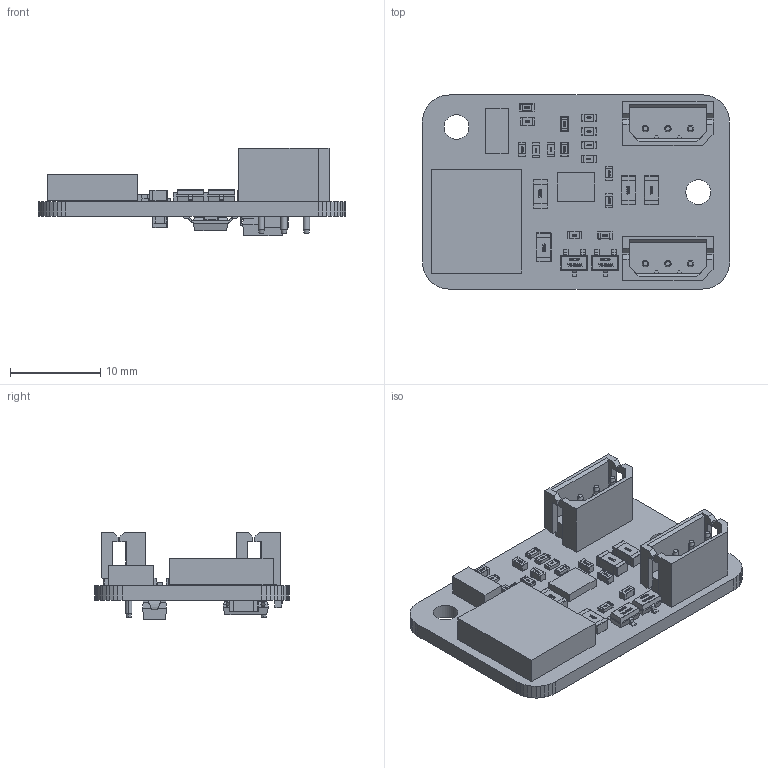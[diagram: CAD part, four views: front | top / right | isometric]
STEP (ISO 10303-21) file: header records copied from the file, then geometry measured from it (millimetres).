
FILE_DESCRIPTION(('Open CASCADE Model'),'2;1');
FILE_NAME('Open CASCADE Shape Model','2024-03-30T10:19:17',('Author'),( 'Open CASCADE'),'Open CASCADE STEP processor 6.5','Open CASCADE 6.5' ,'Unknown');
FILE_SCHEMA(('AUTOMOTIVE_DESIGN { 1 0 10303 214 1 1 1 1 }'));
Length unit declared in the file: millimetre
Products named in the file (64): PCB; Board; U1; 1444549888; Extruded; R9; R0603; R_0603-3615_AF0_ASM; R_0603-3601_AF0_ASM; _2_1_2_3_4_AF0; _7_1_2_AF0; 5_1_2_3_400; R8; R7; R6; R5; R4; R3; R2; R1; Q2; SOT-23; Q1; L1; 1444548992; D2; 1423784848; C14; C_0603; C_0603-7177_AF0_ASM; C_0603-683_AF0_ASM; 2_1_200; _1_1_20001; 3_1_2_A; C13; C12; 3D_Model; C_1206-6326_AF0_ASM; C_1206-2941_AF0_ASM; _1_1_2_3_40001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
Assembly tree (85 placements, depth 6):
  PCB
    Board
    U1
      1444549888
        Extruded
    R9
      R0603
        R_0603-3615_AF0_ASM
          R_0603-3601_AF0_ASM
            _2_1_2_3_4_AF0
            _7_1_2_AF0
            5_1_2_3_400
    R8
      R0603
        R_0603-3615_AF0_ASM
          R_0603-3601_AF0_ASM
            _2_1_2_3_4_AF0
            _7_1_2_AF0
            5_1_2_3_400
    R7
      R0603
        R_0603-3615_AF0_ASM
          R_0603-3601_AF0_ASM
            _2_1_2_3_4_AF0
            _7_1_2_AF0
            5_1_2_3_400
    R6
      R0603
        R_0603-3615_AF0_ASM
          R_0603-3601_AF0_ASM
            _2_1_2_3_4_AF0
            _7_1_2_AF0
            5_1_2_3_400
    R5
      R0603
        R_0603-3615_AF0_ASM
          R_0603-3601_AF0_ASM
            _2_1_2_3_4_AF0
            _7_1_2_AF0
            5_1_2_3_400
    R4
      R0603
        R_0603-3615_AF0_ASM
          R_0603-3601_AF0_ASM
            _2_1_2_3_4_AF0
            _7_1_2_AF0
            5_1_2_3_400
    R3
      R0603
        R_0603-3615_AF0_ASM
          R_0603-3601_AF0_ASM
            _2_1_2_3_4_AF0
            _7_1_2_AF0
            5_1_2_3_400
    R2
      R0603
        R_0603-3615_AF0_ASM
          R_0603-3601_AF0_ASM
            _2_1_2_3_4_AF0
            _7_1_2_AF0
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Bounding box: 34.02 x 21.52 x 9.65 mm (x, y, z)
Volume: 1935.7 mm3; surface area: 3378.1 mm2
Topology: 79 solids, 79 shells, 12924 faces, 34520 edges, 22760 vertices
Faces by surface type: plane 8862, extrusion 3310, cylinder 388, bspline 212, sphere 128, cone 24
Full cylindrical faces by diameter (mm): 1 x6, 2.75 x2
Entity records: 236737 total; most frequent: CARTESIAN_POINT 102894, DIRECTION 19198, VECTOR 14894, LINE 14244, ORIENTED_EDGE 14010, PCURVE 14010, DEFINITIONAL_REPRESENTATION 14010, B_SPLINE_CURVE_WITH_KNOTS 7080
